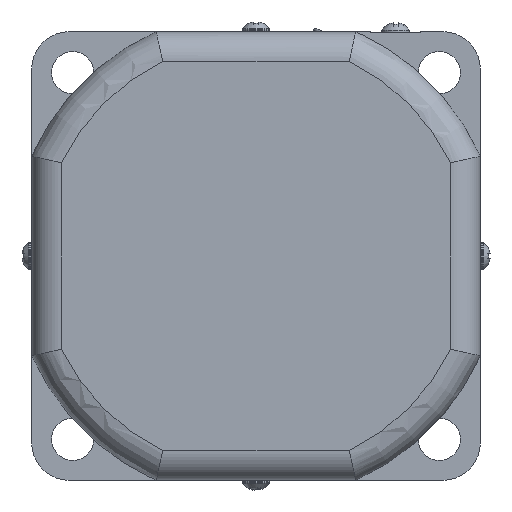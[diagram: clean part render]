
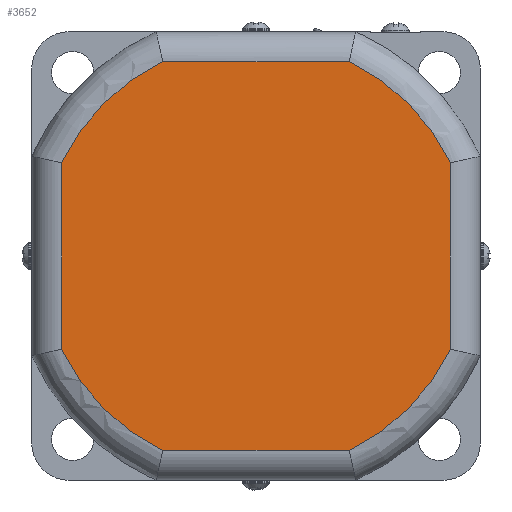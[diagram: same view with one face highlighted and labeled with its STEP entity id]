
A CAD part, left-side view. The second image highlights one B-rep face of the part: STEP entity #3652.
In plain terms, the highlighted planar face has unit normal (-1, 0, 0) as drawn and (0, 0, -1) by its records, which use the part's own axes.
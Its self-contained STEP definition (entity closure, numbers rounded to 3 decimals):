
#187=PLANE('',#4064);
#364=FACE_OUTER_BOUND('',#596,.T.);
#596=EDGE_LOOP('',(#2935,#2936,#2937,#2938,#2939,#2940,#2941,#2942));
#795=CIRCLE('',#4050,43.25);
#796=CIRCLE('',#4054,43.25);
#799=CIRCLE('',#4058,43.25);
#800=CIRCLE('',#4062,43.25);
#993=LINE('',#6227,#1281);
#996=LINE('',#6247,#1284);
#997=LINE('',#6300,#1285);
#998=LINE('',#6317,#1286);
#1281=VECTOR('',#4734,37.393);
#1284=VECTOR('',#4739,37.393);
#1285=VECTOR('',#4754,37.393);
#1286=VECTOR('',#4757,37.393);
#1694=VERTEX_POINT('',#6177);
#1696=VERTEX_POINT('',#6194);
#1698=VERTEX_POINT('',#6212);
#1700=VERTEX_POINT('',#6231);
#1701=VERTEX_POINT('',#6249);
#1702=VERTEX_POINT('',#6267);
#1703=VERTEX_POINT('',#6285);
#1704=VERTEX_POINT('',#6302);
#2131=EDGE_CURVE('',#1696,#1694,#795,.T.);
#2133=EDGE_CURVE('',#1698,#1696,#993,.T.);
#2137=EDGE_CURVE('',#1694,#1700,#996,.T.);
#2139=EDGE_CURVE('',#1701,#1698,#796,.T.);
#2143=EDGE_CURVE('',#1700,#1702,#799,.T.);
#2145=EDGE_CURVE('',#1703,#1701,#997,.T.);
#2147=EDGE_CURVE('',#1702,#1704,#998,.T.);
#2148=EDGE_CURVE('',#1704,#1703,#800,.T.);
#2935=ORIENTED_EDGE('',*,*,#2147,.F.);
#2936=ORIENTED_EDGE('',*,*,#2143,.F.);
#2937=ORIENTED_EDGE('',*,*,#2137,.F.);
#2938=ORIENTED_EDGE('',*,*,#2131,.F.);
#2939=ORIENTED_EDGE('',*,*,#2133,.F.);
#2940=ORIENTED_EDGE('',*,*,#2139,.F.);
#2941=ORIENTED_EDGE('',*,*,#2145,.F.);
#2942=ORIENTED_EDGE('',*,*,#2148,.F.);
#3652=ADVANCED_FACE('',(#364),#187,.F.);
#4050=AXIS2_PLACEMENT_3D('',#6209,#4730,#4731);
#4054=AXIS2_PLACEMENT_3D('',#6264,#4742,#4743);
#4058=AXIS2_PLACEMENT_3D('',#6283,#4750,#4751);
#4062=AXIS2_PLACEMENT_3D('',#6319,#4760,#4761);
#4064=AXIS2_PLACEMENT_3D('',#6321,#4764,#4765);
#4730=DIRECTION('center_axis',(0.,0.,1.));
#4731=DIRECTION('ref_axis',(0.707,-0.707,0.));
#4734=DIRECTION('',(1.,0.,0.));
#4739=DIRECTION('',(0.,1.,0.));
#4742=DIRECTION('center_axis',(0.,0.,1.));
#4743=DIRECTION('ref_axis',(-0.707,-0.707,0.));
#4750=DIRECTION('center_axis',(0.,0.,1.));
#4751=DIRECTION('ref_axis',(0.707,0.707,0.));
#4754=DIRECTION('',(0.,-1.,0.));
#4757=DIRECTION('',(-1.,0.,0.));
#4760=DIRECTION('center_axis',(0.,0.,1.));
#4761=DIRECTION('ref_axis',(-0.707,0.707,0.));
#4764=DIRECTION('center_axis',(0.,0.,1.));
#4765=DIRECTION('ref_axis',(1.,0.,0.));
#6177=CARTESIAN_POINT('',(39.,-18.697,0.));
#6194=CARTESIAN_POINT('',(18.697,-39.,0.));
#6209=CARTESIAN_POINT('Origin',(0.,0.,0.));
#6212=CARTESIAN_POINT('',(-18.697,-39.,0.));
#6227=CARTESIAN_POINT('',(-18.697,-39.,0.));
#6231=CARTESIAN_POINT('',(39.,18.697,0.));
#6247=CARTESIAN_POINT('',(39.,-18.697,0.));
#6249=CARTESIAN_POINT('',(-39.,-18.697,0.));
#6264=CARTESIAN_POINT('Origin',(0.,0.,0.));
#6267=CARTESIAN_POINT('',(18.697,39.,0.));
#6283=CARTESIAN_POINT('Origin',(0.,0.,0.));
#6285=CARTESIAN_POINT('',(-39.,18.697,0.));
#6300=CARTESIAN_POINT('',(-39.,18.697,0.));
#6302=CARTESIAN_POINT('',(-18.697,39.,0.));
#6317=CARTESIAN_POINT('',(18.697,39.,0.));
#6319=CARTESIAN_POINT('Origin',(0.,0.,0.));
#6321=CARTESIAN_POINT('Origin',(0.,0.,0.));
